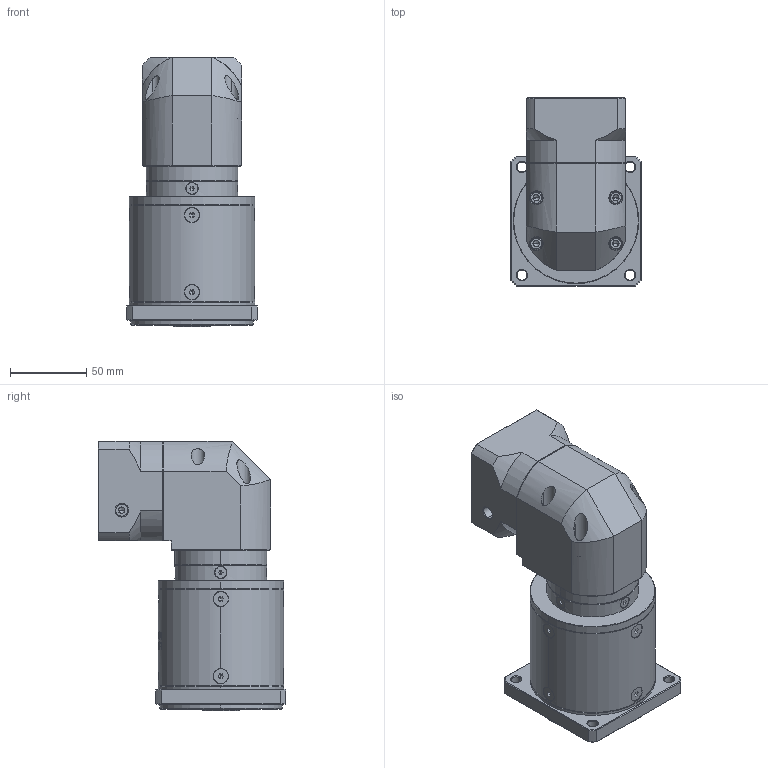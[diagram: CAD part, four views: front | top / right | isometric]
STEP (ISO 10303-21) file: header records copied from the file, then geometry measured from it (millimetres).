
FILE_DESCRIPTION (( 'STEP AP214' ), '1' );
FILE_NAME ('ZFR080-K15-L3-P2-14-60-75-M6.step', '2023-08-25T07:25:39', ( '' ), ( '' ), 'SwSTEP 2.0', 'SolidWorks 2016', '' );
FILE_SCHEMA (( 'AUTOMOTIVE_DESIGN' ));
Length unit declared in the file: millimetre
Products named in the file (1): ZFR080-K15-L3-P2-14-60-75-M6
Bounding box: 85 x 122.7 x 176 mm (x, y, z)
Volume: 884813.7 mm3; surface area: 107798.9 mm2
Topology: 17 solids, 18 shells, 2426 faces, 6366 edges, 4054 vertices
Faces by surface type: plane 1171, cylinder 444, bspline 390, cone 375, torus 46
Entity records: 125364 total; most frequent: CARTESIAN_POINT 43630, ORIENTED_EDGE 12644, DIRECTION 9799, EDGE_CURVE 6322, VERTEX_POINT 4054, VECTOR 3359, LINE 3359, AXIS2_PLACEMENT_3D 3220
